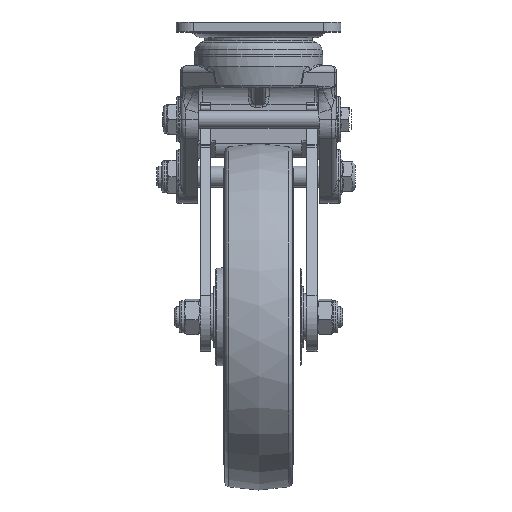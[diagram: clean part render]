
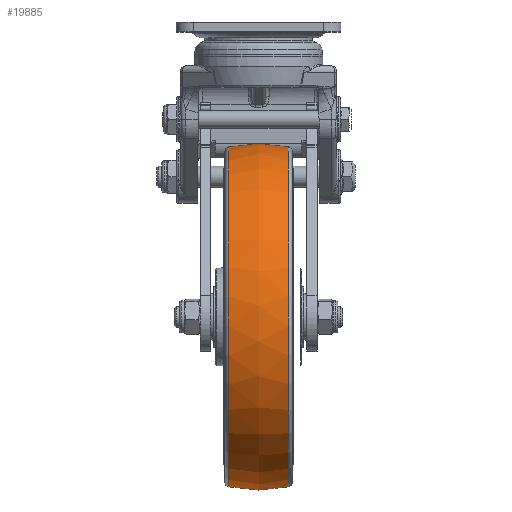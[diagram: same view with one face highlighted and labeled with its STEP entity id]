
A CAD part, front view. The second image highlights one B-rep face of the part: STEP entity #19885.
In plain terms, the highlighted free-form (B-spline) face has degree [2, 2] with [3, 9] control points.
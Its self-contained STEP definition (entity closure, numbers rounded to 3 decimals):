
#13=(
BOUNDED_SURFACE()
B_SPLINE_SURFACE(2,2,((#45548,#45549,#45550,#45551,#45552,#45553,#45554,
#45555,#45556),(#45557,#45558,#45559,#45560,#45561,#45562,#45563,#45564,
#45565),(#45566,#45567,#45568,#45569,#45570,#45571,#45572,#45573,#45574)),
 .UNSPECIFIED.,.F.,.T.,.F.)
B_SPLINE_SURFACE_WITH_KNOTS((3,3),(3,2,2,2,3),(-0.216,0.216),
(-3.142,-1.571,0.,1.571,3.142),
 .UNSPECIFIED.)
GEOMETRIC_REPRESENTATION_ITEM()
RATIONAL_B_SPLINE_SURFACE(((1.,0.707,1.,0.707,1.,
0.707,1.,0.707,1.),(0.977,0.691,
0.977,0.691,0.977,0.691,
0.977,0.691,0.977),(1.,0.707,
1.,0.707,1.,0.707,1.,0.707,1.)))
REPRESENTATION_ITEM('')
SURFACE()
);
#4733=FACE_OUTER_BOUND('',#5930,.T.);
#5930=EDGE_LOOP('',(#17231,#17232,#17233,#17234,#17235,#17236));
#6929=CIRCLE('',#21663,98.142);
#6930=CIRCLE('',#21664,98.142);
#6931=CIRCLE('',#21665,80.);
#6932=CIRCLE('',#21666,98.142);
#6933=CIRCLE('',#21667,98.142);
#8741=VERTEX_POINT('',#45543);
#8742=VERTEX_POINT('',#45545);
#8743=VERTEX_POINT('',#45575);
#8744=VERTEX_POINT('',#45577);
#11579=EDGE_CURVE('',#8741,#8742,#6929,.T.);
#11580=EDGE_CURVE('',#8742,#8741,#6930,.T.);
#11581=EDGE_CURVE('',#8741,#8743,#6931,.T.);
#11582=EDGE_CURVE('',#8743,#8744,#6932,.T.);
#11583=EDGE_CURVE('',#8744,#8743,#6933,.T.);
#17231=ORIENTED_EDGE('',*,*,#11580,.F.);
#17232=ORIENTED_EDGE('',*,*,#11579,.F.);
#17233=ORIENTED_EDGE('',*,*,#11581,.T.);
#17234=ORIENTED_EDGE('',*,*,#11582,.T.);
#17235=ORIENTED_EDGE('',*,*,#11583,.T.);
#17236=ORIENTED_EDGE('',*,*,#11581,.F.);
#19885=ADVANCED_FACE('',(#4733),#13,.F.);
#21663=AXIS2_PLACEMENT_3D('',#45546,#26127,#26128);
#21664=AXIS2_PLACEMENT_3D('',#45547,#26129,#26130);
#21665=AXIS2_PLACEMENT_3D('',#45576,#26131,#26132);
#21666=AXIS2_PLACEMENT_3D('',#45578,#26133,#26134);
#21667=AXIS2_PLACEMENT_3D('',#45579,#26135,#26136);
#26127=DIRECTION('center_axis',(-1.,0.,0.));
#26128=DIRECTION('ref_axis',(0.,-0.8,0.6));
#26129=DIRECTION('center_axis',(-1.,0.,0.));
#26130=DIRECTION('ref_axis',(0.,-0.8,0.6));
#26131=DIRECTION('center_axis',(0.,-0.6,-0.8));
#26132=DIRECTION('ref_axis',(0.,0.8,-0.6));
#26133=DIRECTION('center_axis',(-1.,0.,0.));
#26134=DIRECTION('ref_axis',(0.,-0.8,0.6));
#26135=DIRECTION('center_axis',(-1.,0.,0.));
#26136=DIRECTION('ref_axis',(0.,-0.8,0.6));
#45543=CARTESIAN_POINT('',(-17.143,23.519,-228.88));
#45545=CARTESIAN_POINT('',(-17.143,-133.516,-111.12));
#45546=CARTESIAN_POINT('Origin',(-17.143,-54.999,-170.));
#45547=CARTESIAN_POINT('Origin',(-17.143,-54.999,-170.));
#45548=CARTESIAN_POINT('Ctrl Pts',(17.143,23.519,-228.88));
#45549=CARTESIAN_POINT('Ctrl Pts',(17.143,-35.361,-307.397));
#45550=CARTESIAN_POINT('Ctrl Pts',(17.143,-113.878,-248.517));
#45551=CARTESIAN_POINT('Ctrl Pts',(17.143,-192.396,-189.638));
#45552=CARTESIAN_POINT('Ctrl Pts',(17.143,-133.516,-111.12));
#45553=CARTESIAN_POINT('Ctrl Pts',(17.143,-74.636,-32.603));
#45554=CARTESIAN_POINT('Ctrl Pts',(17.143,3.881,-91.483));
#45555=CARTESIAN_POINT('Ctrl Pts',(17.143,82.398,-150.362));
#45556=CARTESIAN_POINT('Ctrl Pts',(17.143,23.519,-228.88));
#45557=CARTESIAN_POINT('Ctrl Pts',(0.,26.528,
-231.136));
#45558=CARTESIAN_POINT('Ctrl Pts',(0.,-34.608,
-312.662));
#45559=CARTESIAN_POINT('Ctrl Pts',(0.,-116.134,
-251.526));
#45560=CARTESIAN_POINT('Ctrl Pts',(0.,-197.661,
-190.39));
#45561=CARTESIAN_POINT('Ctrl Pts',(0.,-136.525,
-108.864));
#45562=CARTESIAN_POINT('Ctrl Pts',(0.,-75.389,
-27.338));
#45563=CARTESIAN_POINT('Ctrl Pts',(0.,6.137,
-88.474));
#45564=CARTESIAN_POINT('Ctrl Pts',(0.,87.664,
-149.61));
#45565=CARTESIAN_POINT('Ctrl Pts',(0.,26.528,
-231.136));
#45566=CARTESIAN_POINT('Ctrl Pts',(-17.143,23.519,-228.88));
#45567=CARTESIAN_POINT('Ctrl Pts',(-17.143,-35.361,
-307.397));
#45568=CARTESIAN_POINT('Ctrl Pts',(-17.143,-113.878,
-248.517));
#45569=CARTESIAN_POINT('Ctrl Pts',(-17.143,-192.396,
-189.638));
#45570=CARTESIAN_POINT('Ctrl Pts',(-17.143,-133.516,
-111.12));
#45571=CARTESIAN_POINT('Ctrl Pts',(-17.143,-74.636,
-32.603));
#45572=CARTESIAN_POINT('Ctrl Pts',(-17.143,3.881,-91.483));
#45573=CARTESIAN_POINT('Ctrl Pts',(-17.143,82.398,-150.362));
#45574=CARTESIAN_POINT('Ctrl Pts',(-17.143,23.519,-228.88));
#45575=CARTESIAN_POINT('',(17.143,23.519,-228.88));
#45576=CARTESIAN_POINT('Origin',(0.,-38.998,
-181.999));
#45577=CARTESIAN_POINT('',(17.143,-133.516,-111.12));
#45578=CARTESIAN_POINT('Origin',(17.143,-54.999,-170.));
#45579=CARTESIAN_POINT('Origin',(17.143,-54.999,-170.));
